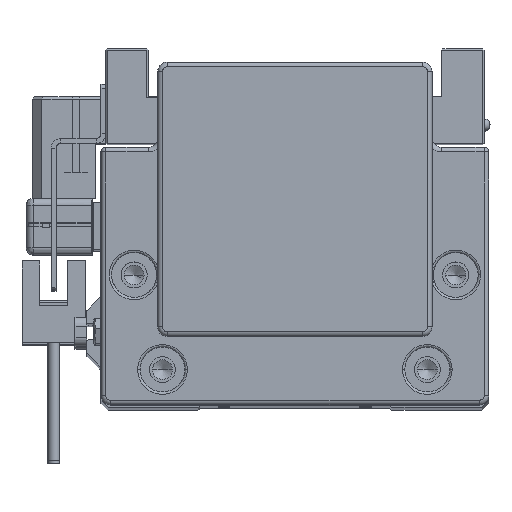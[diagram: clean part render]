
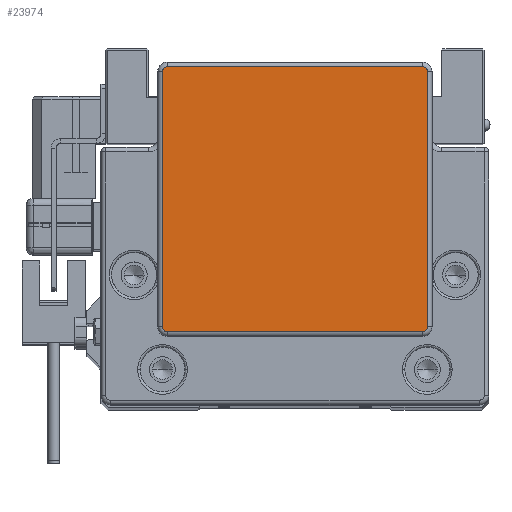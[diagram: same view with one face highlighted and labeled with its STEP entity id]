
A CAD part, top view. The second image highlights one B-rep face of the part: STEP entity #23974.
In plain terms, the highlighted planar face has unit normal (0, 0, 1).
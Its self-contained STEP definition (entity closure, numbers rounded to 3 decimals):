
#446 = AXIS2_PLACEMENT_3D ( 'NONE', #28914, #38965, #42601 ) ;
#1925 = VECTOR ( 'NONE', #15675, 1000. ) ;
#3159 = CARTESIAN_POINT ( 'NONE',  ( -27., 35.25, 17. ) ) ;
#3392 = VERTEX_POINT ( 'NONE', #41854 ) ;
#4048 = ORIENTED_EDGE ( 'NONE', *, *, #38192, .T. ) ;
#4135 = CARTESIAN_POINT ( 'NONE',  ( -28., -19.75, 17. ) ) ;
#4137 = CARTESIAN_POINT ( 'NONE',  ( -27., 34.25, 17. ) ) ;
#5052 = ORIENTED_EDGE ( 'NONE', *, *, #30529, .T. ) ;
#5352 = CIRCLE ( 'NONE', #6076, 1. ) ;
#6076 = AXIS2_PLACEMENT_3D ( 'NONE', #4137, #28788, #7118 ) ;
#7118 = DIRECTION ( 'NONE',  ( 1., 0., 0. ) ) ;
#7155 = LINE ( 'NONE', #17876, #25744 ) ;
#8419 = EDGE_CURVE ( 'NONE', #37133, #8579, #5352, .T. ) ;
#8579 = VERTEX_POINT ( 'NONE', #33972 ) ;
#11125 = EDGE_CURVE ( 'NONE', #3392, #27819, #38963, .T. ) ;
#11407 = DIRECTION ( 'NONE',  ( 0., -1., 0. ) ) ;
#12172 = VECTOR ( 'NONE', #11407, 1000. ) ;
#12433 = ORIENTED_EDGE ( 'NONE', *, *, #8419, .T. ) ;
#13071 = FACE_OUTER_BOUND ( 'NONE', #34108, .T. ) ;
#13391 = ORIENTED_EDGE ( 'NONE', *, *, #40539, .T. ) ;
#13521 = DIRECTION ( 'NONE',  ( 1., 0., 0. ) ) ;
#14160 = AXIS2_PLACEMENT_3D ( 'NONE', #44761, #37933, #13521 ) ;
#14268 = VERTEX_POINT ( 'NONE', #4135 ) ;
#14845 = EDGE_CURVE ( 'NONE', #27819, #27234, #7155, .T. ) ;
#14898 = DIRECTION ( 'NONE',  ( 1., 0., 0. ) ) ;
#15675 = DIRECTION ( 'NONE',  ( 1., 0., 0. ) ) ;
#17267 = VECTOR ( 'NONE', #39431, 1000. ) ;
#17876 = CARTESIAN_POINT ( 'NONE',  ( 28., 34.25, 17. ) ) ;
#18334 = ORIENTED_EDGE ( 'NONE', *, *, #11125, .T. ) ;
#18947 = CARTESIAN_POINT ( 'NONE',  ( -28., -19.75, 17. ) ) ;
#22068 = LINE ( 'NONE', #29137, #1925 ) ;
#23901 = AXIS2_PLACEMENT_3D ( 'NONE', #25417, #39349, #28169 ) ;
#23974 = ADVANCED_FACE ( 'NONE', ( #13071 ), #30877, .T. ) ;
#24415 = VERTEX_POINT ( 'NONE', #44874 ) ;
#24709 = ORIENTED_EDGE ( 'NONE', *, *, #28245, .T. ) ;
#24931 = CARTESIAN_POINT ( 'NONE',  ( 27., 35.25, 17. ) ) ;
#25417 = CARTESIAN_POINT ( 'NONE',  ( 27., 34.25, 17. ) ) ;
#25744 = VECTOR ( 'NONE', #28362, 1000. ) ;
#27234 = VERTEX_POINT ( 'NONE', #32458 ) ;
#27819 = VERTEX_POINT ( 'NONE', #43333 ) ;
#28169 = DIRECTION ( 'NONE',  ( 1., 0., 0. ) ) ;
#28189 = EDGE_CURVE ( 'NONE', #14268, #24415, #36894, .T. ) ;
#28245 = EDGE_CURVE ( 'NONE', #24415, #3392, #22068, .T. ) ;
#28362 = DIRECTION ( 'NONE',  ( 0., 1., 0. ) ) ;
#28582 = ORIENTED_EDGE ( 'NONE', *, *, #28189, .T. ) ;
#28788 = DIRECTION ( 'NONE',  ( 0., 0., 1. ) ) ;
#28914 = CARTESIAN_POINT ( 'NONE',  ( -27., -19.75, 17. ) ) ;
#29045 = CARTESIAN_POINT ( 'NONE',  ( 27., -19.75, 17. ) ) ;
#29137 = CARTESIAN_POINT ( 'NONE',  ( 27., -20.75, 17. ) ) ;
#29507 = DIRECTION ( 'NONE',  ( 0., 0., 1. ) ) ;
#30529 = EDGE_CURVE ( 'NONE', #36461, #37133, #32596, .T. ) ;
#30877 = PLANE ( 'NONE',  #14160 ) ;
#31961 = LINE ( 'NONE', #18947, #12172 ) ;
#32458 = CARTESIAN_POINT ( 'NONE',  ( 28., 34.25, 17. ) ) ;
#32596 = LINE ( 'NONE', #39878, #17267 ) ;
#33972 = CARTESIAN_POINT ( 'NONE',  ( -28., 34.25, 17. ) ) ;
#34108 = EDGE_LOOP ( 'NONE', ( #5052, #12433, #4048, #28582, #24709, #18334, #35152, #13391 ) ) ;
#35152 = ORIENTED_EDGE ( 'NONE', *, *, #14845, .T. ) ;
#36461 = VERTEX_POINT ( 'NONE', #24931 ) ;
#36894 = CIRCLE ( 'NONE', #446, 1. ) ;
#37133 = VERTEX_POINT ( 'NONE', #3159 ) ;
#37933 = DIRECTION ( 'NONE',  ( 0., 0., 1. ) ) ;
#38192 = EDGE_CURVE ( 'NONE', #8579, #14268, #31961, .T. ) ;
#38963 = CIRCLE ( 'NONE', #39718, 1. ) ;
#38965 = DIRECTION ( 'NONE',  ( 0., 0., 1. ) ) ;
#39349 = DIRECTION ( 'NONE',  ( 0., 0., 1. ) ) ;
#39431 = DIRECTION ( 'NONE',  ( -1., 0., 0. ) ) ;
#39718 = AXIS2_PLACEMENT_3D ( 'NONE', #29045, #29507, #14898 ) ;
#39878 = CARTESIAN_POINT ( 'NONE',  ( -27., 35.25, 17. ) ) ;
#40539 = EDGE_CURVE ( 'NONE', #27234, #36461, #43556, .T. ) ;
#41854 = CARTESIAN_POINT ( 'NONE',  ( 27., -20.75, 17. ) ) ;
#42601 = DIRECTION ( 'NONE',  ( 1., 0., 0. ) ) ;
#43333 = CARTESIAN_POINT ( 'NONE',  ( 28., -19.75, 17. ) ) ;
#43556 = CIRCLE ( 'NONE', #23901, 1. ) ;
#44761 = CARTESIAN_POINT ( 'NONE',  ( -27., -19.75, 17. ) ) ;
#44874 = CARTESIAN_POINT ( 'NONE',  ( -27., -20.75, 17. ) ) ;
